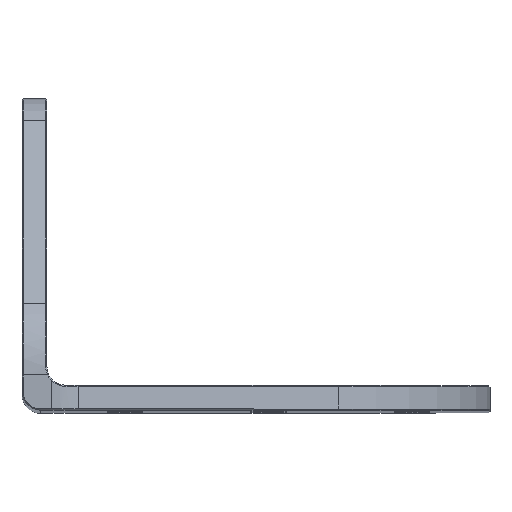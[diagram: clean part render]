
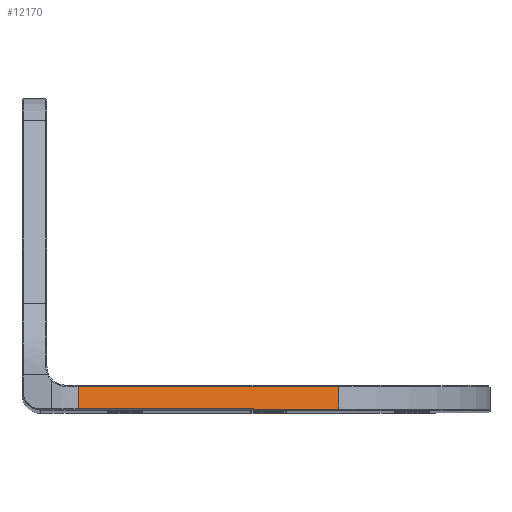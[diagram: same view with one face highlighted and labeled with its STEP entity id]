
A CAD part, top view. The second image highlights one B-rep face of the part: STEP entity #12170.
In plain terms, the highlighted planar face has unit normal (0.423, 0, 0.906).
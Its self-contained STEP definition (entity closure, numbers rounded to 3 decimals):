
#141 = LINE ( 'NONE', #11302, #8263 ) ;
#567 = VECTOR ( 'NONE', #22068, 1000. ) ;
#766 = AXIS2_PLACEMENT_3D ( 'NONE', #27005, #5894, #29939 ) ;
#2602 = DIRECTION ( 'NONE',  ( 0., -1., 0. ) ) ;
#4006 = ORIENTED_EDGE ( 'NONE', *, *, #22194, .F. ) ;
#4596 = EDGE_CURVE ( 'NONE', #11361, #25454, #141, .T. ) ;
#5894 = DIRECTION ( 'NONE',  ( -0.423, 0., -0.906 ) ) ;
#6268 = EDGE_CURVE ( 'NONE', #27273, #11361, #7225, .T. ) ;
#6507 = VECTOR ( 'NONE', #2602, 1000. ) ;
#7225 = LINE ( 'NONE', #30513, #6507 ) ;
#8263 = VECTOR ( 'NONE', #29793, 1000. ) ;
#8586 = VERTEX_POINT ( 'NONE', #19907 ) ;
#9036 = CARTESIAN_POINT ( 'NONE',  ( 9.009, 0.2, 149.063 ) ) ;
#9908 = ORIENTED_EDGE ( 'NONE', *, *, #4596, .T. ) ;
#10659 = LINE ( 'NONE', #17291, #567 ) ;
#11302 = CARTESIAN_POINT ( 'NONE',  ( 7., 0.2, 150. ) ) ;
#11361 = VERTEX_POINT ( 'NONE', #9036 ) ;
#12170 = ADVANCED_FACE ( 'NONE', ( #24558 ), #17617, .F. ) ;
#12501 = DIRECTION ( 'NONE',  ( 0., -1., 0. ) ) ;
#12968 = LINE ( 'NONE', #14974, #27154 ) ;
#13981 = EDGE_CURVE ( 'NONE', #8586, #27273, #10659, .T. ) ;
#14974 = CARTESIAN_POINT ( 'NONE',  ( 50.75, 50., 129.599 ) ) ;
#15426 = EDGE_LOOP ( 'NONE', ( #4006, #27345, #23085, #9908 ) ) ;
#17291 = CARTESIAN_POINT ( 'NONE',  ( 7., 3.8, 150. ) ) ;
#17617 = PLANE ( 'NONE',  #766 ) ;
#19907 = CARTESIAN_POINT ( 'NONE',  ( 50.75, 3.8, 129.599 ) ) ;
#22068 = DIRECTION ( 'NONE',  ( -0.906, 0., 0.423 ) ) ;
#22194 = EDGE_CURVE ( 'NONE', #8586, #25454, #12968, .T. ) ;
#22798 = CARTESIAN_POINT ( 'NONE',  ( 50.75, 0.2, 129.599 ) ) ;
#23085 = ORIENTED_EDGE ( 'NONE', *, *, #6268, .T. ) ;
#24558 = FACE_OUTER_BOUND ( 'NONE', #15426, .T. ) ;
#25454 = VERTEX_POINT ( 'NONE', #22798 ) ;
#27005 = CARTESIAN_POINT ( 'NONE',  ( 7., 50., 150. ) ) ;
#27154 = VECTOR ( 'NONE', #12501, 1000. ) ;
#27273 = VERTEX_POINT ( 'NONE', #27911 ) ;
#27345 = ORIENTED_EDGE ( 'NONE', *, *, #13981, .T. ) ;
#27911 = CARTESIAN_POINT ( 'NONE',  ( 9.009, 3.8, 149.063 ) ) ;
#29793 = DIRECTION ( 'NONE',  ( 0.906, 0., -0.423 ) ) ;
#29939 = DIRECTION ( 'NONE',  ( -0.906, 0., 0.423 ) ) ;
#30513 = CARTESIAN_POINT ( 'NONE',  ( 9.009, 0., 149.063 ) ) ;
